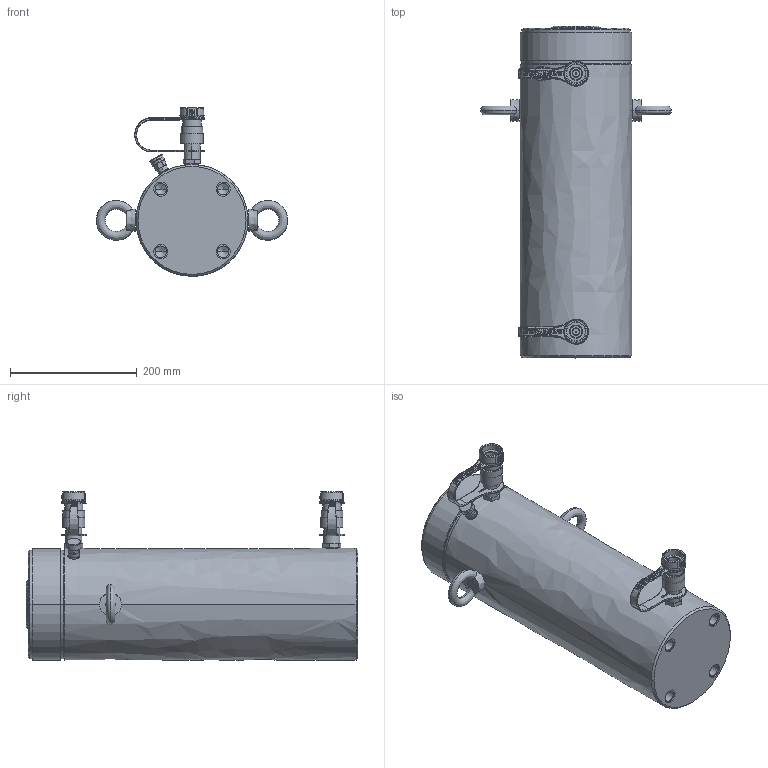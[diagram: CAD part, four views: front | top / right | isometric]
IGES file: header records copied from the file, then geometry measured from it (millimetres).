
Start section:  PTC IGES file: rr10013.igs
Global section: file name: rr10013.igs; native system: Creo Parametric by PTC Inc.; preprocessor: 2017020; author: brandon.pockat; organization: Unknown; date: 20180716.154408; units: inch
Bounding box: 302.13 x 524.05 x 266.28 mm (x, y, z)
Volume: 10425499.2 mm3; surface area: 877271.6 mm2
Topology: 1 solids, 1 shells, 1407 faces, 3548 edges, 2264 vertices
Faces by surface type: bspline 713, revolution 558, extrusion 136
